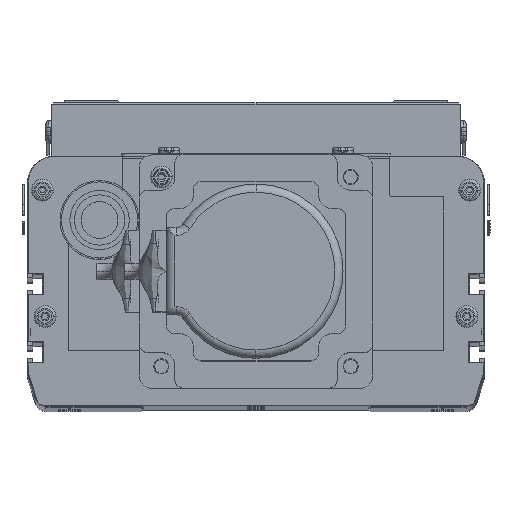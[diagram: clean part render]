
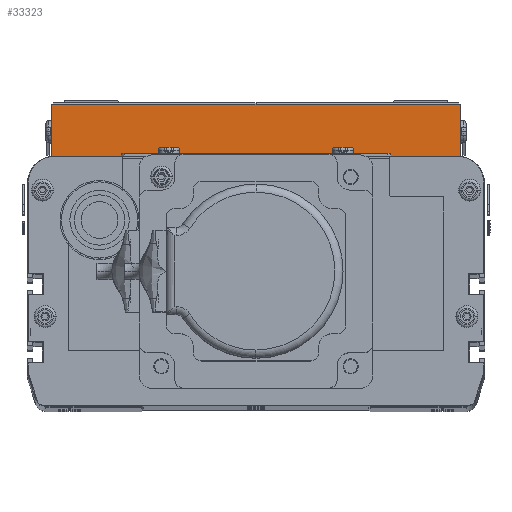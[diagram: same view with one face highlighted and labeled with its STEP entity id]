
A CAD part, top view. The second image highlights one B-rep face of the part: STEP entity #33323.
In plain terms, the highlighted planar face has unit normal (0, 0, 1) as drawn and (1, 0, 0) by its records, which use the part's own axes.
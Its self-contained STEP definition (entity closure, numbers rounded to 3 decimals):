
#33323 = ADVANCED_FACE ( 'NONE', ( #76263 ), #76244, .F. ) ;
#33325 = EDGE_CURVE ( 'NONE', #33893, #33491, #76254, .T. ) ;
#33327 = ORIENTED_EDGE ( 'NONE', *, *, #33709, .F. ) ;
#33386 = EDGE_LOOP ( 'NONE', ( #33327, #33494, #33633, #33579, #33606 ) ) ;
#33388 = EDGE_CURVE ( 'NONE', #33587, #33689, #76293, .T. ) ;
#33424 = VERTEX_POINT ( 'NONE', #76275 ) ;
#33491 = VERTEX_POINT ( 'NONE', #76392 ) ;
#33494 = ORIENTED_EDGE ( 'NONE', *, *, #33325, .T. ) ;
#33579 = ORIENTED_EDGE ( 'NONE', *, *, #33388, .T. ) ;
#33587 = VERTEX_POINT ( 'NONE', #103945 ) ;
#33606 = ORIENTED_EDGE ( 'NONE', *, *, #33722, .T. ) ;
#33633 = ORIENTED_EDGE ( 'NONE', *, *, #33635, .T. ) ;
#33635 = EDGE_CURVE ( 'NONE', #33491, #33587, #103836, .T. ) ;
#33689 = VERTEX_POINT ( 'NONE', #104191 ) ;
#33709 = EDGE_CURVE ( 'NONE', #33893, #33424, #104142, .T. ) ;
#33722 = EDGE_CURVE ( 'NONE', #33689, #33424, #104151, .T. ) ;
#33893 = VERTEX_POINT ( 'NONE', #88327 ) ;
#76241 = CARTESIAN_POINT ( 'NONE',  ( 220., 20., 0. ) ) ;
#76244 = PLANE ( 'NONE',  #76261 ) ;
#76246 = DIRECTION ( 'NONE',  ( 0., 0., 1. ) ) ;
#76247 = VECTOR ( 'NONE', #76246, 1000. ) ;
#76248 = CARTESIAN_POINT ( 'NONE',  ( 220., 19.5, 0. ) ) ;
#76250 = DIRECTION ( 'NONE',  ( 0., 0., 1. ) ) ;
#76251 = DIRECTION ( 'NONE',  ( -1., 0., 0. ) ) ;
#76254 = LINE ( 'NONE', #76248, #76247 ) ;
#76261 = AXIS2_PLACEMENT_3D ( 'NONE', #76241, #76251, #76250 ) ;
#76263 = FACE_OUTER_BOUND ( 'NONE', #33386, .T. ) ;
#76275 = CARTESIAN_POINT ( 'NONE',  ( 220., 0., -150. ) ) ;
#76289 = DIRECTION ( 'NONE',  ( 0., -1., 0. ) ) ;
#76290 = VECTOR ( 'NONE', #76289, 1000. ) ;
#76292 = CARTESIAN_POINT ( 'NONE',  ( 220., 20., 0. ) ) ;
#76293 = LINE ( 'NONE', #76292, #76290 ) ;
#76392 = CARTESIAN_POINT ( 'NONE',  ( 220., 19.5, -75. ) ) ;
#88327 = CARTESIAN_POINT ( 'NONE',  ( 220., 19.5, -150. ) ) ;
#103835 = CARTESIAN_POINT ( 'NONE',  ( 220., 19.5, 0. ) ) ;
#103836 = LINE ( 'NONE', #103835, #103911 ) ;
#103909 = DIRECTION ( 'NONE',  ( 0., 0., 1. ) ) ;
#103911 = VECTOR ( 'NONE', #103909, 1000. ) ;
#103945 = CARTESIAN_POINT ( 'NONE',  ( 220., 19.5, 0. ) ) ;
#104121 = DIRECTION ( 'NONE',  ( 0., 0., -1. ) ) ;
#104122 = VECTOR ( 'NONE', #104121, 1000. ) ;
#104137 = DIRECTION ( 'NONE',  ( 0., -1., 0. ) ) ;
#104138 = VECTOR ( 'NONE', #104137, 1000. ) ;
#104141 = CARTESIAN_POINT ( 'NONE',  ( 220., 20., -150. ) ) ;
#104142 = LINE ( 'NONE', #104141, #104138 ) ;
#104149 = CARTESIAN_POINT ( 'NONE',  ( 220., 0., 0. ) ) ;
#104151 = LINE ( 'NONE', #104149, #104122 ) ;
#104191 = CARTESIAN_POINT ( 'NONE',  ( 220., 0., 0. ) ) ;
